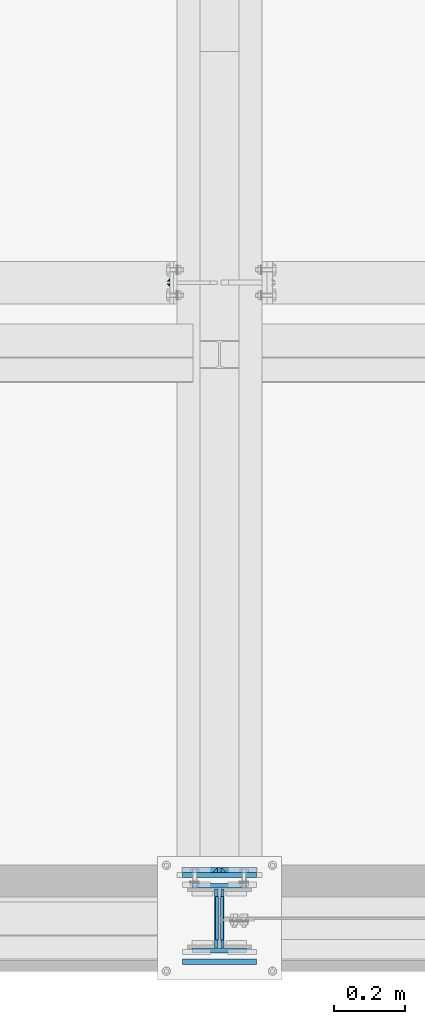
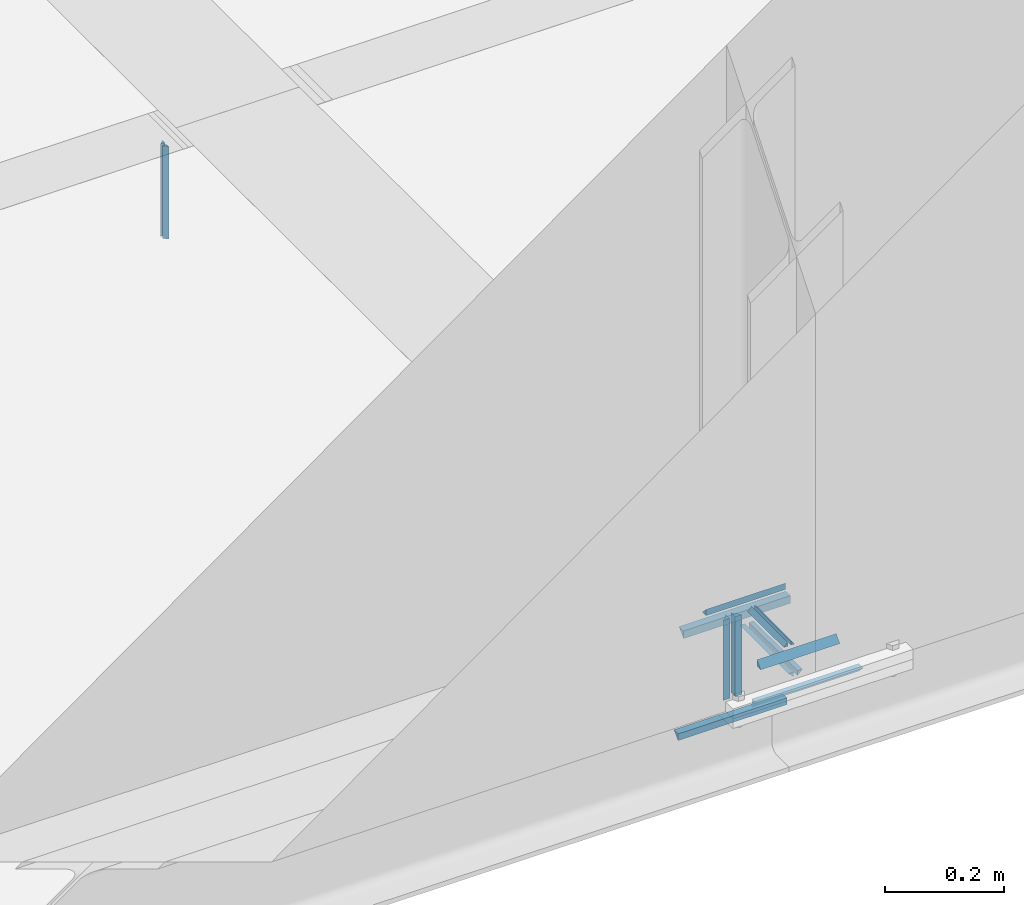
# One storey, part 19 of 66: 22 fasteners.
"""IFC4 building model written with IfcOpenShell, lengths in metres."""

from ifc_helpers import new_model, si_unit, frame, origin_with_axes, place, context, project, spatial, polyline, outline, extrude, type_object, element, save


model = new_model("IFC4")

# Units and contexts
model_context = context("Model", 3, precision=1e-05, world=origin_with_axes())
ifc_project = project(units=[si_unit("LENGTHUNIT", "METRE"), si_unit("AREAUNIT", "SQUARE_METRE"), si_unit("VOLUMEUNIT", "CUBIC_METRE"), si_unit("MASSUNIT", "GRAM", prefix="KILO"), si_unit("TIMEUNIT", "SECOND"), si_unit("PLANEANGLEUNIT", "RADIAN"), si_unit("SOLIDANGLEUNIT", "STERADIAN"), si_unit("THERMODYNAMICTEMPERATUREUNIT", "DEGREE_CELSIUS")], contexts=[model_context])

# Site, building, storey
placement_1 = place(None, origin_with_axes())
site = spatial("IfcSite", under=ifc_project, at=placement_1, Name="Italia", CompositionType="ELEMENT")
building = spatial("IfcBuilding", under=site, at=placement_1, Name="Uffici", CompositionType="ELEMENT")
storey_placement = place(None, frame((0.0, 0.0, 3.299999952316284), z_axis=(0.0, 0.0, 1.0), x_axis=(1.0, 0.0, 0.0)))
storey = spatial("IfcBuildingStorey", under=building, at=storey_placement, Name="Storey 1", CompositionType="ELEMENT", Elevation=3.299999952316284)

# Fasteners
fastener_type_1 = type_object("IfcFastenerType", Name="Collegamento -004_-003", PredefinedType="WELD")
placement_2 = place(placement_1, origin_with_axes())
fastener_1_placement = place(placement_2, origin_with_axes())
element("IfcFastener", 1, at=fastener_1_placement, inside=storey, type_object=fastener_type_1, Name="Collegamento -004_-003", context=model_context, shape_type="SweptSolid", body=[
    extrude(outline(polyline([(0.0, 0.0), (0.00792813, 0.00817299), (0.00792813, 0.0), (0.0, 0.0)])), frame((9.31505, 1.78569, 3.08475), z_axis=(0.0, 0.0, 1.0), x_axis=(0.0, 1.0, 0.0)), (0.0, 0.0, 1.0), 0.1905),
])
fastener_type_2 = type_object("IfcFastenerType", Name="Collegamento -004_-003", PredefinedType="WELD")
fastener_2_placement = place(placement_2, origin_with_axes())
element("IfcFastener", 2, at=fastener_2_placement, inside=storey, type_object=fastener_type_2, Name="Collegamento -004_-003", context=model_context, shape_type="SweptSolid", body=[
    extrude(outline(polyline([(0.0, 0.0), (-0.00792813, -0.00817299), (-0.00792813, 0.0), (0.0, 0.0)])), frame((9.31505, 1.80764, 3.27525), z_axis=(0.0, 0.0, -1.0), x_axis=(0.0, 1.0, 0.0)), (0.0, 0.0, 1.0), 0.1905),
])
fastener_type_3 = type_object("IfcFastenerType", Name="Collegamento -004_-003", PredefinedType="WELD")
fastener_3_placement = place(placement_2, origin_with_axes())
element("IfcFastener", 3, at=fastener_3_placement, inside=storey, type_object=fastener_type_3, Name="Collegamento -004_-003", context=model_context, shape_type="SweptSolid", body=[
    extrude(outline(polyline([(0.0, 0.0), (0.00792813, 0.00817299), (0.00792813, 0.0), (0.0, 0.0)])), frame((9.31505, 1.78569, 3.08475), z_axis=(0.0, 0.0, 1.0), x_axis=(0.0, 1.0, 0.0)), (0.0, 0.0, 1.0), 0.1905),
])
fastener_type_4 = type_object("IfcFastenerType", Name="Collegamento -004_-003", PredefinedType="WELD")
fastener_4_placement = place(placement_2, origin_with_axes())
element("IfcFastener", 4, at=fastener_4_placement, inside=storey, type_object=fastener_type_4, Name="Collegamento -004_-003", context=model_context, shape_type="SweptSolid", body=[
    extrude(outline(polyline([(0.0, 0.0), (-0.00792813, -0.00817299), (-0.00792813, 0.0), (0.0, 0.0)])), frame((9.31505, 1.80764, 3.27525), z_axis=(0.0, 0.0, -1.0), x_axis=(0.0, 1.0, 0.0)), (0.0, 0.0, 1.0), 0.1905),
])
fastener_type_5 = type_object("IfcFastenerType", Name="Collegamenti 0101_-001 0102_-002 0103_-003 0104_-004", PredefinedType="WELD")
fastener_5_placement = place(placement_2, origin_with_axes())
element("IfcFastener", 5, at=fastener_5_placement, inside=storey, type_object=fastener_type_5, Name="Collegamenti 0101_-001 0102_-002 0103_-003 0104_-004", context=model_context, shape_type="SweptSolid", body=[
    extrude(outline(polyline([(0.0, 0.0), (-0.0141733, 0.0137482), (0.0, 0.0137482), (0.0, 0.0)])), frame((9.56105, 0.12995, 3.0463), z_axis=(-1.0, 0.0, 0.0), x_axis=(0.0, -1.0, 0.0)), (0.0, 0.0, 1.0), 0.212099),
])
fastener_type_6 = type_object("IfcFastenerType", Name="Collegamenti 0101_-001 0102_-002 0103_-003 0104_-004", PredefinedType="WELD")
fastener_6_placement = place(placement_2, origin_with_axes())
element("IfcFastener", 6, at=fastener_6_placement, inside=storey, type_object=fastener_type_6, Name="Collegamenti 0101_-001 0102_-002 0103_-003 0104_-004", context=model_context, shape_type="SweptSolid", body=[
    extrude(outline(polyline([(0.0, 0.0), (0.0141734, -0.0137482), (0.0, -0.0137482), (0.0, 0.0)])), frame((9.4363, 0.12995, 3.09795), z_axis=(0.0, 0.0, 1.0), x_axis=(0.0, 1.0, 0.0)), (0.0, 0.0, 1.0), 0.1641),
])
fastener_type_7 = type_object("IfcFastenerType", Name="Collegamenti 0101_-001 0102_-002 0103_-003 0104_-004", PredefinedType="WELD")
fastener_7_placement = place(placement_2, origin_with_axes())
element("IfcFastener", 7, at=fastener_7_placement, inside=storey, type_object=fastener_type_7, Name="Collegamenti 0101_-001 0102_-002 0103_-003 0104_-004", context=model_context, shape_type="SweptSolid", body=[
    extrude(outline(polyline([(0.0, 0.0), (0.0141734, -0.0137482), (0.0, -0.0137482), (0.0, 0.0)])), frame((9.4737, 0.12995, 3.26205), z_axis=(0.0, 0.0, -1.0), x_axis=(0.0, 1.0, 0.0)), (0.0, 0.0, 1.0), 0.1641),
])
fastener_type_8 = type_object("IfcFastenerType", Name="Collegamenti 0101_-001 0102_-002 0103_-003 0104_-004", PredefinedType="WELD")
fastener_8_placement = place(placement_2, origin_with_axes())
element("IfcFastener", 8, at=fastener_8_placement, inside=storey, type_object=fastener_type_8, Name="Collegamenti 0101_-001 0102_-002 0103_-003 0104_-004", context=model_context, shape_type="SweptSolid", body=[
    extrude(outline(polyline([(0.0, 0.0), (-0.0141733, 0.0137482), (0.0, 0.0137482), (0.0, 0.0)])), frame((9.56105, 0.12995, 3.0463), z_axis=(-1.0, 0.0, 0.0), x_axis=(0.0, -1.0, 0.0)), (0.0, 0.0, 1.0), 0.212099),
])
fastener_type_9 = type_object("IfcFastenerType", Name="Collegamenti 0101_-001 0102_-002 0103_-003 0104_-004", PredefinedType="WELD")
fastener_9_placement = place(placement_2, origin_with_axes())
element("IfcFastener", 9, at=fastener_9_placement, inside=storey, type_object=fastener_type_9, Name="Collegamenti 0101_-001 0102_-002 0103_-003 0104_-004", context=model_context, shape_type="SweptSolid", body=[
    extrude(outline(polyline([(0.0, 0.0), (0.0141734, -0.0137482), (0.0, -0.0137482), (0.0, 0.0)])), frame((9.4363, 0.12995, 3.09795), z_axis=(0.0, 0.0, 1.0), x_axis=(0.0, 1.0, 0.0)), (0.0, 0.0, 1.0), 0.1641),
])
fastener_type_10 = type_object("IfcFastenerType", Name="Collegamenti 0101_-001 0102_-002 0103_-003 0104_-004", PredefinedType="WELD")
fastener_10_placement = place(placement_2, origin_with_axes())
element("IfcFastener", 10, at=fastener_10_placement, inside=storey, type_object=fastener_type_10, Name="Collegamenti 0101_-001 0102_-002 0103_-003 0104_-004", context=model_context, shape_type="SweptSolid", body=[
    extrude(outline(polyline([(0.0, 0.0), (0.0141734, -0.0137482), (0.0, -0.0137482), (0.0, 0.0)])), frame((9.4737, 0.12995, 3.26205), z_axis=(0.0, 0.0, -1.0), x_axis=(0.0, 1.0, 0.0)), (0.0, 0.0, 1.0), 0.1641),
])
fastener_type_11 = type_object("IfcFastenerType", Name="Collegamenti 0101_0201 0102_0202 0103_0203 0104_0204 0105_0205", PredefinedType="WELD")
fastener_11_placement = place(placement_2, origin_with_axes())
element("IfcFastener", 11, at=fastener_11_placement, inside=storey, type_object=fastener_type_11, Name="Collegamenti 0101_0201 0102_0202 0103_0203 0104_0204 0105_0205", context=model_context, shape_type="SweptSolid", body=[
    extrude(outline(polyline([(0.0, 0.0), (0.0127782, 0.0131733), (0.0127782, 0.0), (0.0, 0.0)])), frame((9.53205, 0.0982282, 3.31995), z_axis=(-1.0, 0.0, 0.0), x_axis=(0.0, -1.0, 0.0)), (0.0, 0.0, 1.0), 0.1541),
])
fastener_type_12 = type_object("IfcFastenerType", Name="Collegamenti 0101_0201 0102_0202 0103_0203 0104_0204 0105_0205", PredefinedType="WELD")
fastener_12_placement = place(placement_2, origin_with_axes())
element("IfcFastener", 12, at=fastener_12_placement, inside=storey, type_object=fastener_type_12, Name="Collegamenti 0101_0201 0102_0202 0103_0203 0104_0204 0105_0205", context=model_context, shape_type="SweptSolid", body=[
    extrude(outline(polyline([(0.0, 0.0), (0.0127782, 0.0131733), (0.0127782, 0.0), (0.0, 0.0)])), frame((9.37795, -0.0982282, 3.31995), z_axis=(1.0, 0.0, 0.0), x_axis=(0.0, 1.0, 0.0)), (0.0, 0.0, 1.0), 0.1541),
])
fastener_type_13 = type_object("IfcFastenerType", Name="Collegamenti 0101_0201 0102_0202 0103_0203 0104_0204 0105_0205", PredefinedType="WELD")
fastener_13_placement = place(placement_2, origin_with_axes())
element("IfcFastener", 13, at=fastener_13_placement, inside=storey, type_object=fastener_type_13, Name="Collegamenti 0101_0201 0102_0202 0103_0203 0104_0204 0105_0205", context=model_context, shape_type="SweptSolid", body=[
    extrude(outline(polyline([(0.0, 0.0), (0.00792885, 0.00817347), (0.00792885, 0.0), (0.0, 0.0)])), frame((9.46588, -0.06105, 3.31995), z_axis=(0.0, 1.0, 0.0), x_axis=(-1.0, 0.0, 0.0)), (0.0, 0.0, 1.0), 0.1221),
])
fastener_type_14 = type_object("IfcFastenerType", Name="Collegamenti 0101_0201 0102_0202 0103_0203 0104_0204 0105_0205", PredefinedType="WELD")
fastener_14_placement = place(placement_2, origin_with_axes())
element("IfcFastener", 14, at=fastener_14_placement, inside=storey, type_object=fastener_type_14, Name="Collegamenti 0101_0201 0102_0202 0103_0203 0104_0204 0105_0205", context=model_context, shape_type="SweptSolid", body=[
    extrude(outline(polyline([(0.0, 0.0), (0.00792885, 0.00817347), (0.00792885, 0.0), (0.0, 0.0)])), frame((9.44412, 0.06105, 3.31995), z_axis=(0.0, -1.0, 0.0), x_axis=(1.0, 0.0, 0.0)), (0.0, 0.0, 1.0), 0.1221),
])
fastener_type_15 = type_object("IfcFastenerType", Name="Collegamenti 0101_0201 0102_0202 0103_0203 0104_0204 0105_0205", PredefinedType="WELD")
fastener_15_placement = place(placement_2, origin_with_axes())
element("IfcFastener", 15, at=fastener_15_placement, inside=storey, type_object=fastener_type_15, Name="Collegamenti 0101_0201 0102_0202 0103_0203 0104_0204 0105_0205", context=model_context, shape_type="SweptSolid", body=[
    extrude(outline(polyline([(0.0, 0.0), (0.0127782, 0.0131733), (0.0127782, 0.0), (0.0, 0.0)])), frame((9.53205, 0.0982282, 3.31995), z_axis=(-1.0, 0.0, 0.0), x_axis=(0.0, -1.0, 0.0)), (0.0, 0.0, 1.0), 0.1541),
])
fastener_type_16 = type_object("IfcFastenerType", Name="Collegamenti 0101_0201 0102_0202 0103_0203 0104_0204 0105_0205", PredefinedType="WELD")
fastener_16_placement = place(placement_2, origin_with_axes())
element("IfcFastener", 16, at=fastener_16_placement, inside=storey, type_object=fastener_type_16, Name="Collegamenti 0101_0201 0102_0202 0103_0203 0104_0204 0105_0205", context=model_context, shape_type="SweptSolid", body=[
    extrude(outline(polyline([(0.0, 0.0), (0.0127782, 0.0131733), (0.0127782, 0.0), (0.0, 0.0)])), frame((9.37795, -0.0982282, 3.31995), z_axis=(1.0, 0.0, 0.0), x_axis=(0.0, 1.0, 0.0)), (0.0, 0.0, 1.0), 0.1541),
])
fastener_type_17 = type_object("IfcFastenerType", Name="Collegamenti 0101_0201 0102_0202 0103_0203 0104_0204 0105_0205", PredefinedType="WELD")
fastener_17_placement = place(placement_2, origin_with_axes())
element("IfcFastener", 17, at=fastener_17_placement, inside=storey, type_object=fastener_type_17, Name="Collegamenti 0101_0201 0102_0202 0103_0203 0104_0204 0105_0205", context=model_context, shape_type="SweptSolid", body=[
    extrude(outline(polyline([(0.0, 0.0), (0.00792885, 0.00817347), (0.00792885, 0.0), (0.0, 0.0)])), frame((9.46588, -0.06105, 3.31995), z_axis=(0.0, 1.0, 0.0), x_axis=(-1.0, 0.0, 0.0)), (0.0, 0.0, 1.0), 0.1221),
])
fastener_type_18 = type_object("IfcFastenerType", Name="Collegamenti 0101_0201 0102_0202 0103_0203 0104_0204 0105_0205", PredefinedType="WELD")
fastener_18_placement = place(placement_2, origin_with_axes())
element("IfcFastener", 18, at=fastener_18_placement, inside=storey, type_object=fastener_type_18, Name="Collegamenti 0101_0201 0102_0202 0103_0203 0104_0204 0105_0205", context=model_context, shape_type="SweptSolid", body=[
    extrude(outline(polyline([(0.0, 0.0), (0.00792885, 0.00817347), (0.00792885, 0.0), (0.0, 0.0)])), frame((9.44412, 0.06105, 3.31995), z_axis=(0.0, -1.0, 0.0), x_axis=(1.0, 0.0, 0.0)), (0.0, 0.0, 1.0), 0.1221),
])
fastener_type_19 = type_object("IfcFastenerType", Name="Collegamenti 0101_0201 0102_0202 0103_0203 0104_0204 0105_0205", PredefinedType="WELD")
fastener_19_placement = place(placement_2, origin_with_axes())
element("IfcFastener", 19, at=fastener_19_placement, inside=storey, type_object=fastener_type_19, Name="Collegamenti 0101_0201 0102_0202 0103_0203 0104_0204 0105_0205", context=model_context, shape_type="SweptSolid", body=[
    extrude(outline(polyline([(0.0, 0.0), (0.0153519, -0.0158267), (0.0153519, 0.0), (0.0, 0.0)])), frame((9.55905, 0.130402, 3.27995), z_axis=(-1.0, 0.0, 0.0), x_axis=(0.0, -1.0, 0.0)), (0.0, 0.0, 1.0), 0.208099),
])
fastener_type_20 = type_object("IfcFastenerType", Name="Collegamenti 0101_0201 0102_0202 0103_0203 0104_0204 0105_0205", PredefinedType="WELD")
fastener_20_placement = place(placement_2, origin_with_axes())
element("IfcFastener", 20, at=fastener_20_placement, inside=storey, type_object=fastener_type_20, Name="Collegamenti 0101_0201 0102_0202 0103_0203 0104_0204 0105_0205", context=model_context, shape_type="SweptSolid", body=[
    extrude(outline(polyline([(0.0, 0.0), (0.0153519, -0.0158267), (0.0153519, 0.0), (0.0, 0.0)])), frame((9.35095, -0.130402, 3.27995), z_axis=(1.0, 0.0, 0.0), x_axis=(0.0, 1.0, 0.0)), (0.0, 0.0, 1.0), 0.208099),
])
fastener_type_21 = type_object("IfcFastenerType", Name="Collegamenti 0101_0201 0102_0202 0103_0203 0104_0204 0105_0205", PredefinedType="WELD")
fastener_21_placement = place(placement_2, origin_with_axes())
element("IfcFastener", 21, at=fastener_21_placement, inside=storey, type_object=fastener_type_21, Name="Collegamenti 0101_0201 0102_0202 0103_0203 0104_0204 0105_0205", context=model_context, shape_type="SweptSolid", body=[
    extrude(outline(polyline([(0.0, 0.0), (0.00953102, -0.00982666), (0.00953102, 0.0), (0.0, 0.0)])), frame((9.46833, -0.08205, 3.27995), z_axis=(0.0, 1.0, 0.0), x_axis=(-1.0, 0.0, 0.0)), (0.0, 0.0, 1.0), 0.1641),
])
fastener_type_22 = type_object("IfcFastenerType", Name="Collegamenti 0101_0201 0102_0202 0103_0203 0104_0204 0105_0205", PredefinedType="WELD")
fastener_22_placement = place(placement_2, origin_with_axes())
element("IfcFastener", 22, at=fastener_22_placement, inside=storey, type_object=fastener_type_22, Name="Collegamenti 0101_0201 0102_0202 0103_0203 0104_0204 0105_0205", context=model_context, shape_type="SweptSolid", body=[
    extrude(outline(polyline([(0.0, 0.0), (0.00953102, -0.00982666), (0.00953102, 0.0), (0.0, 0.0)])), frame((9.44167, 0.08205, 3.27995), z_axis=(0.0, -1.0, 0.0), x_axis=(1.0, 0.0, 0.0)), (0.0, 0.0, 1.0), 0.1641),
])

save(model, "model.ifc")
